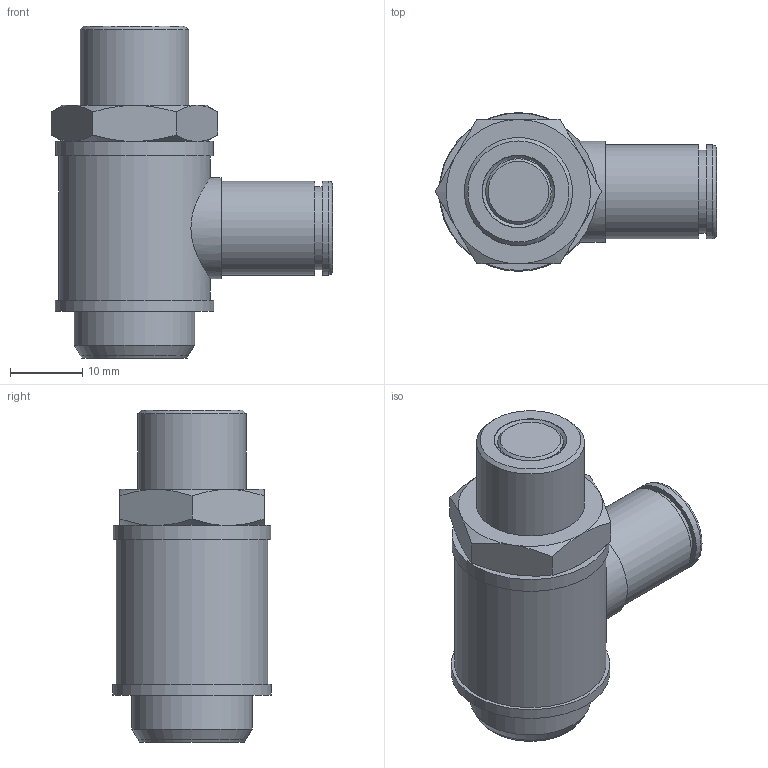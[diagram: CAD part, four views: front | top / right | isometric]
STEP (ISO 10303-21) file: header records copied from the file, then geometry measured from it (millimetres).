
FILE_DESCRIPTION(('Bauteilbeschreibung','HiCAD-Model','HiCAD-STEP-TRANSLATION','Bauteilbeschreibung'),'2;1');
FILE_NAME('B:/ABGLEICH/ZEICHNUNGEN/STEP FÜR INTERNET/STEP/IPSO 029/304809_IPSO_029_8_3-8.STP','2012-05-08T14:24:40+00:00',('Konstrukteur'),('Konstrukteur Firma GmbH'),' HiCAD neXt 2008, Step 3.1.1401.2J ','HiCAD neXt 2008','confidential');
FILE_SCHEMA(('AUTOMOTIVE_DESIGN { 1 2 10303 214 0 1 1 1 }'));
Length unit declared in the file: millimetre
Products named in the file (13): A04809_IPSO_029_8_3_8; DICHTRING 3_8; A00044; A04008_SPINDEL; A040080SPINDEL; DIN 13_M10X0_75; A04008_BUCHSE; A04008; A040080; G 3_8; DIN0130M10X0075; DR8_1_NEU; R201209_N
Assembly tree (12 placements, depth 3):
  A04809_IPSO_029_8_3_8
    DICHTRING 3_8
    A00044
    A04008_SPINDEL
    A040080SPINDEL
      DIN 13_M10X0_75
    A04008_BUCHSE
    A04008
    A040080
      G 3_8
      DIN0130M10X0075
    DR8_1_NEU
    R201209_N
Bounding box: 39.05 x 22 x 46 mm (x, y, z)
Volume: 12411.9 mm3; surface area: 13995 mm2
Topology: 10 solids, 10 shells, 130 faces, 262 edges, 161 vertices
Faces by surface type: plane 43, cylinder 43, cone 42, torus 2
Full cylindrical faces by diameter (mm): 6.7 x1, 7 x1, 7.5 x1, 8.1 x1, 8.2 x1, 8.7 x1, 9.08 x3, 10 x4, 10.1 x1, 10.3 x1, 10.5 x1, 10.6 x1, 11 x1, 11.5 x1, 11.6 x1, 12 x1, 12.4 x2, 13 x2, 14 x1, 14.95 x2, 15 x1, 16.662 x2, 16.7 x1, 16.75 x1, 17.1 x1, 21 x1, 21.8 x1, 22 x1
Entity records: 5381 total; most frequent: CARTESIAN_POINT 1832, DIRECTION 580, ORIENTED_EDGE 342, AXIS2_PLACEMENT_3D 281, EDGE_LOOP 230, COLOUR_RGB 179, PRESENTATION_STYLE_ASSIGNMENT 179, EDGE_CURVE 171
